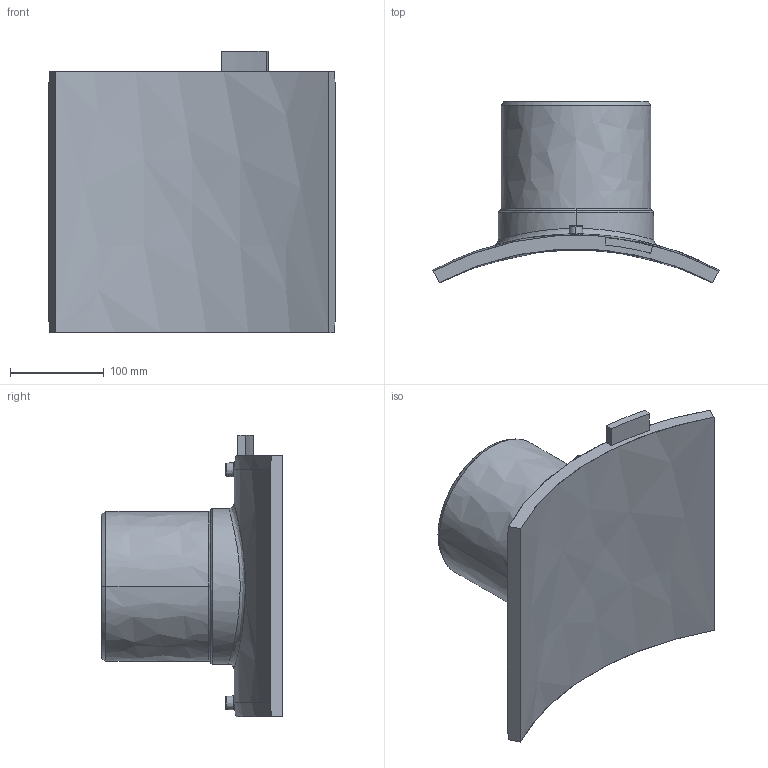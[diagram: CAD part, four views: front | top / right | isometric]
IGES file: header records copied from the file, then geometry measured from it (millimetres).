
Start section:  PTC IGES file: sa-uni_d630_160_01.igs
Global section: file name: sa-uni_d630_160_01.igs; native system: Pro/ENGINEER by Parametric Technology Corporation; preprocessor: 2011490; author: MikulicP; organization: Unknown; date: 20170207.084347; units: millimetre
Bounding box: 305.76 x 193.85 x 301 mm (x, y, z)
Surface area: 335266.7 mm2 (no closed solid volume)
Topology: 0 solids, 0 shells, 202 faces, 994 edges, 992 vertices
Faces by surface type: bspline 202
